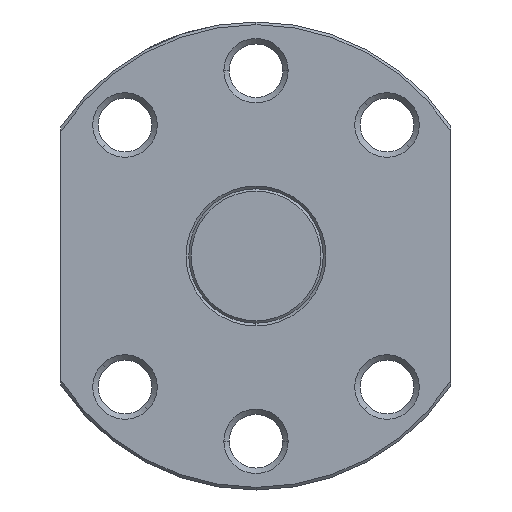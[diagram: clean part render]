
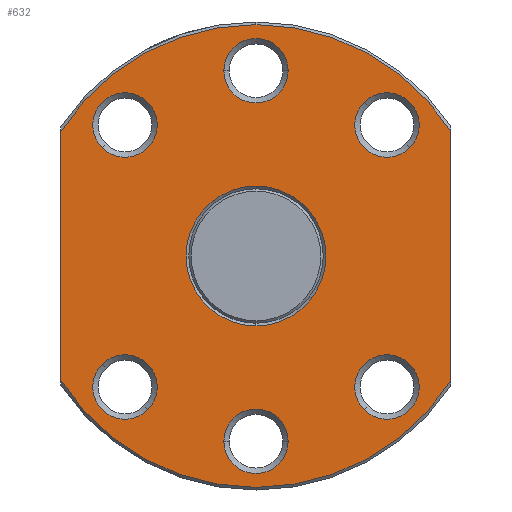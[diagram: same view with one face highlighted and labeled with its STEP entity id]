
A CAD part, left-side view. The second image highlights one B-rep face of the part: STEP entity #632.
In plain terms, the highlighted planar face has unit normal (-1, 0, 0).
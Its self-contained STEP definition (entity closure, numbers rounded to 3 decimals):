
#400=VERTEX_POINT('',#1134);
#422=EDGE_CURVE('',#1010,#478,#1159,.T.);
#452=VERTEX_POINT('',#1195);
#470=EDGE_CURVE('',#1010,#1040,#1215,.T.);
#474=VERTEX_POINT('',#1219);
#478=VERTEX_POINT('',#1224);
#512=VERTEX_POINT('',#1261);
#550=EDGE_CURVE('',#786,#626,#1304,.T.);
#586=EDGE_CURVE('',#818,#976,#1344,.T.);
#594=EDGE_CURVE('',#796,#400,#1352,.T.);
#602=VERTEX_POINT('',#1361);
#618=EDGE_CURVE('',#1034,#1052,#1378,.T.);
#626=VERTEX_POINT('',#1388);
#628=VERTEX_POINT('',#1390);
#632=ADVANCED_FACE('',(#1394,#1395,#1396,#1397,#1398,#1399,#1400,#1401),#1402,.T.);
#634=EDGE_CURVE('',#628,#452,#1404,.T.);
#658=EDGE_CURVE('',#626,#786,#1432,.T.);
#700=EDGE_CURVE('',#512,#1040,#1475,.T.);
#736=EDGE_CURVE('',#956,#602,#1514,.T.);
#738=EDGE_CURVE('',#844,#474,#1516,.T.);
#746=EDGE_CURVE('',#478,#602,#1524,.T.);
#786=VERTEX_POINT('',#1578);
#794=EDGE_CURVE('',#400,#796,#1587,.T.);
#796=VERTEX_POINT('',#1589);
#818=VERTEX_POINT('',#1612);
#844=VERTEX_POINT('',#1644);
#860=EDGE_CURVE('',#452,#628,#1661,.T.);
#872=EDGE_CURVE('',#956,#512,#1675,.T.);
#894=EDGE_CURVE('',#1014,#932,#1698,.T.);
#906=EDGE_CURVE('',#932,#1014,#1713,.T.);
#914=EDGE_CURVE('',#976,#818,#1722,.T.);
#932=VERTEX_POINT('',#1742);
#956=VERTEX_POINT('',#1768);
#976=VERTEX_POINT('',#1791);
#1010=VERTEX_POINT('',#1829);
#1014=VERTEX_POINT('',#1834);
#1034=VERTEX_POINT('',#1856);
#1040=VERTEX_POINT('',#1863);
#1052=VERTEX_POINT('',#1875);
#1066=EDGE_CURVE('',#1052,#1034,#1891,.T.);
#1086=EDGE_CURVE('',#474,#844,#1911,.T.);
#1134=CARTESIAN_POINT('',(25.0,-11.102,-15.768));
#1159=CIRCLE('',#1989,23.73);
#1195=CARTESIAN_POINT('',(25.0,3.3,19.0));
#1215=LINE('',#2067,#2068);
#1219=CARTESIAN_POINT('',(25.0,15.768,11.102));
#1224=CARTESIAN_POINT('',(25.0,0.,-23.73));
#1261=CARTESIAN_POINT('',(25.0,0.,23.73));
#1304=CIRCLE('',#2193,3.3);
#1344=CIRCLE('',#2244,3.3);
#1352=CIRCLE('',#2257,3.3);
#1361=CARTESIAN_POINT('',(25.0,20.0,-12.772));
#1378=CIRCLE('',#2290,7.176);
#1388=CARTESIAN_POINT('',(25.0,-11.102,15.768));
#1390=CARTESIAN_POINT('',(25.0,-3.3,19.0));
#1394=FACE_BOUND('',#2310,.T.);
#1395=FACE_OUTER_BOUND('',#2311,.T.);
#1396=FACE_BOUND('',#2312,.T.);
#1397=FACE_BOUND('',#2313,.T.);
#1398=FACE_BOUND('',#2314,.T.);
#1399=FACE_BOUND('',#2315,.T.);
#1400=FACE_BOUND('',#2316,.T.);
#1401=FACE_BOUND('',#2317,.T.);
#1402=PLANE('',#2318);
#1404=CIRCLE('',#2321,3.3);
#1432=CIRCLE('',#2357,3.3);
#1475=CIRCLE('',#2427,23.73);
#1514=LINE('',#2516,#2517);
#1516=CIRCLE('',#2520,3.3);
#1524=CIRCLE('',#2533,23.73);
#1578=CARTESIAN_POINT('',(25.0,-15.768,11.102));
#1587=CIRCLE('',#2608,3.3);
#1589=CARTESIAN_POINT('',(25.0,-15.768,-11.102));
#1612=CARTESIAN_POINT('',(25.0,11.102,-15.768));
#1644=CARTESIAN_POINT('',(25.0,11.102,15.768));
#1661=CIRCLE('',#2722,3.3);
#1675=CIRCLE('',#2741,23.73);
#1698=CIRCLE('',#2782,3.3);
#1713=CIRCLE('',#2799,3.3);
#1722=CIRCLE('',#2811,3.3);
#1742=CARTESIAN_POINT('',(25.0,-3.3,-19.0));
#1768=CARTESIAN_POINT('',(25.0,20.0,12.772));
#1791=CARTESIAN_POINT('',(25.0,15.768,-11.102));
#1829=CARTESIAN_POINT('',(25.0,-20.0,-12.772));
#1834=CARTESIAN_POINT('',(25.0,3.3,-19.0));
#1856=CARTESIAN_POINT('',(25.0,0.0,7.176));
#1863=CARTESIAN_POINT('',(25.0,-20.0,12.772));
#1875=CARTESIAN_POINT('',(25.0,0.,-7.176));
#1891=CIRCLE('',#3078,7.176);
#1911=CIRCLE('',#3108,3.3);
#1989=AXIS2_PLACEMENT_3D('',#3184,#3185,#3186);
#2067=CARTESIAN_POINT('',(25.0,-20.0,5.933));
#2068=VECTOR('',#3265,1.0);
#2193=AXIS2_PLACEMENT_3D('',#3359,#3360,#3361);
#2244=AXIS2_PLACEMENT_3D('',#3409,#3410,#3411);
#2257=AXIS2_PLACEMENT_3D('',#3419,#3420,#3421);
#2290=AXIS2_PLACEMENT_3D('',#3451,#3452,#3453);
#2310=EDGE_LOOP('',(#3467,#3468));
#2311=EDGE_LOOP('',(#3469,#3470,#3471,#3472,#3473,#3474));
#2312=EDGE_LOOP('',(#3475,#3476));
#2313=EDGE_LOOP('',(#3477,#3478));
#2314=EDGE_LOOP('',(#3479,#3480));
#2315=EDGE_LOOP('',(#3481,#3482));
#2316=EDGE_LOOP('',(#3483,#3484));
#2317=EDGE_LOOP('',(#3485,#3486));
#2318=AXIS2_PLACEMENT_3D('',#3487,#3488,#3489);
#2321=AXIS2_PLACEMENT_3D('',#3490,#3491,#3492);
#2357=AXIS2_PLACEMENT_3D('',#3536,#3537,#3538);
#2427=AXIS2_PLACEMENT_3D('',#3570,#3571,#3572);
#2516=CARTESIAN_POINT('',(25.0,20.0,5.933));
#2517=VECTOR('',#3614,1.0);
#2520=AXIS2_PLACEMENT_3D('',#3615,#3616,#3617);
#2533=AXIS2_PLACEMENT_3D('',#3625,#3626,#3627);
#2608=AXIS2_PLACEMENT_3D('',#3720,#3721,#3722);
#2722=AXIS2_PLACEMENT_3D('',#3807,#3808,#3809);
#2741=AXIS2_PLACEMENT_3D('',#3833,#3834,#3835);
#2782=AXIS2_PLACEMENT_3D('',#3855,#3856,#3857);
#2799=AXIS2_PLACEMENT_3D('',#3885,#3886,#3887);
#2811=AXIS2_PLACEMENT_3D('',#3897,#3898,#3899);
#3078=AXIS2_PLACEMENT_3D('',#4090,#4091,#4092);
#3108=AXIS2_PLACEMENT_3D('',#4105,#4106,#4107);
#3184=CARTESIAN_POINT('',(25.0,0.0,0.0));
#3185=DIRECTION('',(1.0,0.0,-0.0));
#3186=DIRECTION('',(0.0,0.0,1.0));
#3265=DIRECTION('',(0.,0.0,1.0));
#3359=CARTESIAN_POINT('',(25.0,-13.435,13.435));
#3360=DIRECTION('',(1.0,0.0,0.));
#3361=DIRECTION('',(0.,0.707,0.707));
#3409=CARTESIAN_POINT('',(25.0,13.435,-13.435));
#3410=DIRECTION('',(1.0,0.0,0.));
#3411=DIRECTION('',(0.,-0.707,-0.707));
#3419=CARTESIAN_POINT('',(25.0,-13.435,-13.435));
#3420=DIRECTION('',(1.0,0.0,0.));
#3421=DIRECTION('',(0.,-0.707,0.707));
#3451=CARTESIAN_POINT('',(25.0,0.0,0.0));
#3452=DIRECTION('',(1.0,0.0,0.));
#3453=DIRECTION('',(0.,0.0,1.0));
#3467=ORIENTED_EDGE('',*,*,#618,.T.);
#3468=ORIENTED_EDGE('',*,*,#1066,.T.);
#3469=ORIENTED_EDGE('',*,*,#736,.T.);
#3470=ORIENTED_EDGE('',*,*,#746,.F.);
#3471=ORIENTED_EDGE('',*,*,#422,.F.);
#3472=ORIENTED_EDGE('',*,*,#470,.T.);
#3473=ORIENTED_EDGE('',*,*,#700,.F.);
#3474=ORIENTED_EDGE('',*,*,#872,.F.);
#3475=ORIENTED_EDGE('',*,*,#594,.T.);
#3476=ORIENTED_EDGE('',*,*,#794,.T.);
#3477=ORIENTED_EDGE('',*,*,#906,.T.);
#3478=ORIENTED_EDGE('',*,*,#894,.T.);
#3479=ORIENTED_EDGE('',*,*,#586,.T.);
#3480=ORIENTED_EDGE('',*,*,#914,.T.);
#3481=ORIENTED_EDGE('',*,*,#1086,.T.);
#3482=ORIENTED_EDGE('',*,*,#738,.T.);
#3483=ORIENTED_EDGE('',*,*,#860,.T.);
#3484=ORIENTED_EDGE('',*,*,#634,.T.);
#3485=ORIENTED_EDGE('',*,*,#658,.T.);
#3486=ORIENTED_EDGE('',*,*,#550,.T.);
#3487=CARTESIAN_POINT('',(25.0,0.0,11.865));
#3488=DIRECTION('',(-1.0,-0.0,0.));
#3489=DIRECTION('',(0.,0.0,-1.0));
#3490=CARTESIAN_POINT('',(25.0,0.0,19.0));
#3491=DIRECTION('',(1.0,-0.0,0.));
#3492=DIRECTION('',(0.0,1.0,0.0));
#3536=CARTESIAN_POINT('',(25.0,-13.435,13.435));
#3537=DIRECTION('',(1.0,0.0,0.));
#3538=DIRECTION('',(0.,0.707,0.707));
#3570=CARTESIAN_POINT('',(25.0,0.0,0.0));
#3571=DIRECTION('',(1.0,0.0,-0.0));
#3572=DIRECTION('',(0.0,0.0,1.0));
#3614=DIRECTION('',(0.,0.0,-1.0));
#3615=CARTESIAN_POINT('',(25.0,13.435,13.435));
#3616=DIRECTION('',(1.0,0.0,0.));
#3617=DIRECTION('',(0.,0.707,-0.707));
#3625=CARTESIAN_POINT('',(25.0,0.0,0.0));
#3626=DIRECTION('',(1.0,0.0,-0.0));
#3627=DIRECTION('',(0.0,0.0,1.0));
#3720=CARTESIAN_POINT('',(25.0,-13.435,-13.435));
#3721=DIRECTION('',(1.0,0.0,0.));
#3722=DIRECTION('',(0.,-0.707,0.707));
#3807=CARTESIAN_POINT('',(25.0,0.0,19.0));
#3808=DIRECTION('',(1.0,-0.0,0.));
#3809=DIRECTION('',(0.0,1.0,0.0));
#3833=CARTESIAN_POINT('',(25.0,0.0,0.0));
#3834=DIRECTION('',(1.0,0.0,-0.0));
#3835=DIRECTION('',(0.0,0.0,1.0));
#3855=CARTESIAN_POINT('',(25.0,0.0,-19.0));
#3856=DIRECTION('',(1.0,0.0,0.));
#3857=DIRECTION('',(0.0,-1.0,0.0));
#3885=CARTESIAN_POINT('',(25.0,0.0,-19.0));
#3886=DIRECTION('',(1.0,0.0,0.));
#3887=DIRECTION('',(0.0,-1.0,0.0));
#3897=CARTESIAN_POINT('',(25.0,13.435,-13.435));
#3898=DIRECTION('',(1.0,0.0,0.));
#3899=DIRECTION('',(0.,-0.707,-0.707));
#4090=CARTESIAN_POINT('',(25.0,0.0,0.0));
#4091=DIRECTION('',(1.0,0.0,0.));
#4092=DIRECTION('',(0.,0.0,1.0));
#4105=CARTESIAN_POINT('',(25.0,13.435,13.435));
#4106=DIRECTION('',(1.0,0.0,0.));
#4107=DIRECTION('',(0.,0.707,-0.707));
